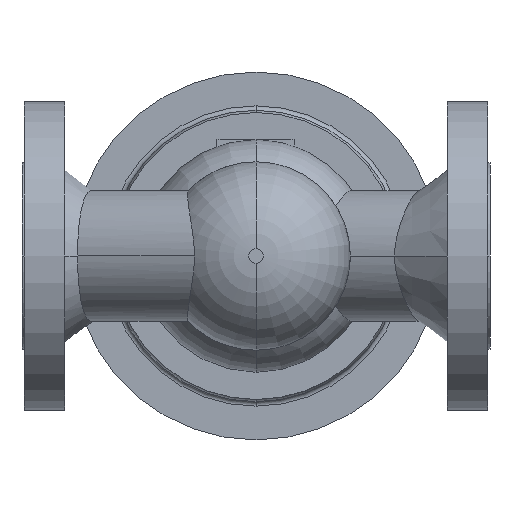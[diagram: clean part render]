
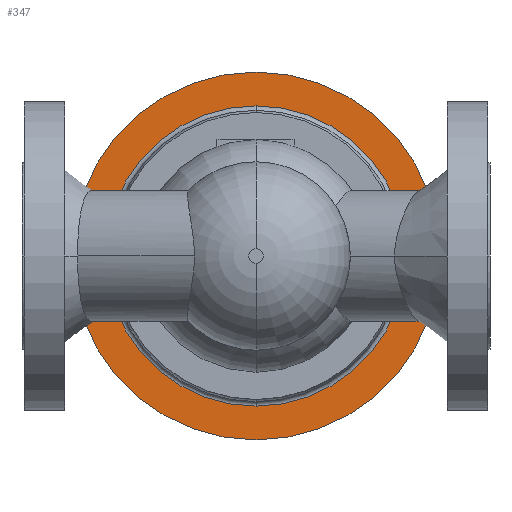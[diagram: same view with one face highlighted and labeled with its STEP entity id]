
A CAD part, front view. The second image highlights one B-rep face of the part: STEP entity #347.
In plain terms, the highlighted planar face has unit normal (0, -1, 0).
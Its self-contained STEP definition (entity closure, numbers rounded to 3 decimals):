
#347 = ADVANCED_FACE( '', ( #864, #865 ), #866, .T. );
#864 = FACE_OUTER_BOUND( '', #1390, .T. );
#865 = FACE_BOUND( '', #1391, .T. );
#866 = PLANE( '', #1392 );
#1390 = EDGE_LOOP( '', ( #3217, #3218 ) );
#1391 = EDGE_LOOP( '', ( #3219, #3220, #3221 ) );
#1392 = AXIS2_PLACEMENT_3D( '', #3222, #3223, #3224 );
#3217 = ORIENTED_EDGE( '', *, *, #3683, .F. );
#3218 = ORIENTED_EDGE( '', *, *, #3854, .F. );
#3219 = ORIENTED_EDGE( '', *, *, #3852, .T. );
#3220 = ORIENTED_EDGE( '', *, *, #3690, .T. );
#3221 = ORIENTED_EDGE( '', *, *, #3853, .T. );
#3222 = CARTESIAN_POINT( '', ( 272.5, 665.7, 0. ) );
#3223 = DIRECTION( '', ( 0., -1., 0. ) );
#3224 = DIRECTION( '', ( -1., 0., 0. ) );
#3683 = EDGE_CURVE( '', #4543, #4546, #4547, .T. );
#3690 = EDGE_CURVE( '', #4552, #4558, #4560, .T. );
#3852 = EDGE_CURVE( '', #4829, #4552, #4830, .T. );
#3853 = EDGE_CURVE( '', #4558, #4829, #4831, .T. );
#3854 = EDGE_CURVE( '', #4546, #4543, #4832, .T. );
#4543 = VERTEX_POINT( '', #6311 );
#4546 = VERTEX_POINT( '', #6315 );
#4547 = CIRCLE( '', #6316, 125. );
#4552 = VERTEX_POINT( '', #6322 );
#4558 = VERTEX_POINT( '', #6328 );
#4560 = CIRCLE( '', #6330, 102. );
#4829 = VERTEX_POINT( '', #6668 );
#4830 = CIRCLE( '', #6669, 102. );
#4831 = CIRCLE( '', #6670, 102. );
#4832 = CIRCLE( '', #6671, 125. );
#6311 = CARTESIAN_POINT( '', ( 284., 665.7, 0. ) );
#6315 = CARTESIAN_POINT( '', ( 34., 665.7, 0. ) );
#6316 = AXIS2_PLACEMENT_3D( '', #7484, #7485, #7486 );
#6322 = CARTESIAN_POINT( '', ( 159., 665.7, -102. ) );
#6328 = CARTESIAN_POINT( '', ( 159., 665.7, 102. ) );
#6330 = AXIS2_PLACEMENT_3D( '', #7503, #7504, #7505 );
#6668 = CARTESIAN_POINT( '', ( 261., 665.7, 0. ) );
#6669 = AXIS2_PLACEMENT_3D( '', #7851, #7852, #7853 );
#6670 = AXIS2_PLACEMENT_3D( '', #7854, #7855, #7856 );
#6671 = AXIS2_PLACEMENT_3D( '', #7857, #7858, #7859 );
#7484 = CARTESIAN_POINT( '', ( 159., 665.7, 0. ) );
#7485 = DIRECTION( '', ( 0., 1., 0. ) );
#7486 = DIRECTION( '', ( 1., 0., 0. ) );
#7503 = CARTESIAN_POINT( '', ( 159., 665.7, 0. ) );
#7504 = DIRECTION( '', ( 0., 1., 0. ) );
#7505 = DIRECTION( '', ( 1., 0., 0. ) );
#7851 = CARTESIAN_POINT( '', ( 159., 665.7, 0. ) );
#7852 = DIRECTION( '', ( 0., 1., 0. ) );
#7853 = DIRECTION( '', ( 1., 0., 0. ) );
#7854 = CARTESIAN_POINT( '', ( 159., 665.7, 0. ) );
#7855 = DIRECTION( '', ( 0., 1., 0. ) );
#7856 = DIRECTION( '', ( 1., 0., 0. ) );
#7857 = CARTESIAN_POINT( '', ( 159., 665.7, 0. ) );
#7858 = DIRECTION( '', ( 0., 1., 0. ) );
#7859 = DIRECTION( '', ( 1., 0., 0. ) );
